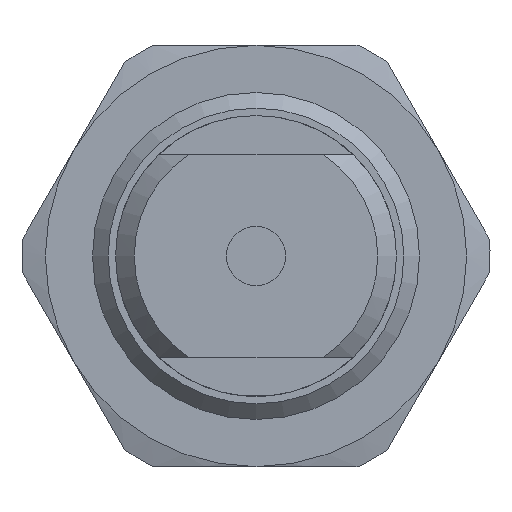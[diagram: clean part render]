
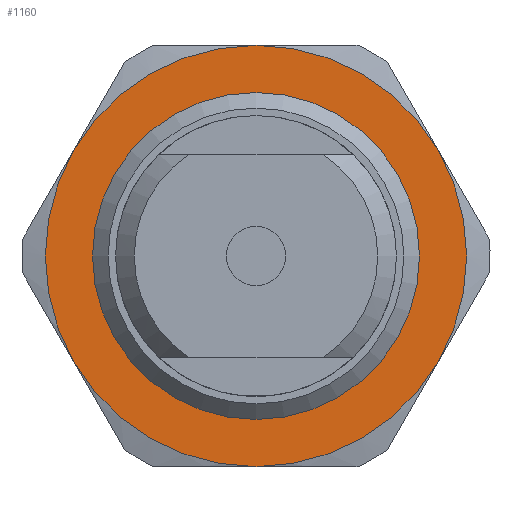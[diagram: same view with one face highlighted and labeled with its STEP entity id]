
A CAD part, front view. The second image highlights one B-rep face of the part: STEP entity #1160.
In plain terms, the highlighted planar face has unit normal (0, -1, 0).
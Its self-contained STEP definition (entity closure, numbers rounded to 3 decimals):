
#921=CIRCLE('',#2739,13.5);
#922=CIRCLE('',#2741,13.5);
#923=CIRCLE('',#2743,13.5);
#924=CIRCLE('',#2745,13.5);
#925=CIRCLE('',#2747,13.5);
#928=CIRCLE('',#2753,13.5);
#1057=FACE_OUTER_BOUND('',#1381,.T.);
#1160=ADVANCED_FACE('',(#1057),#1234,.F.);
#1234=PLANE('',#2755);
#1381=EDGE_LOOP('',(#1738,#1739,#1740,#1741,#1742,#1743));
#1738=ORIENTED_EDGE('',*,*,#2284,.T.);
#1739=ORIENTED_EDGE('',*,*,#2287,.T.);
#1740=ORIENTED_EDGE('',*,*,#2290,.T.);
#1741=ORIENTED_EDGE('',*,*,#2299,.T.);
#1742=ORIENTED_EDGE('',*,*,#2279,.T.);
#1743=ORIENTED_EDGE('',*,*,#2281,.T.);
#2058=VERTEX_POINT('',#3802);
#2059=VERTEX_POINT('',#3804);
#2060=VERTEX_POINT('',#3811);
#2061=VERTEX_POINT('',#3822);
#2062=VERTEX_POINT('',#3833);
#2063=VERTEX_POINT('',#3844);
#2279=EDGE_CURVE('',#2059,#2058,#921,.T.);
#2281=EDGE_CURVE('',#2058,#2060,#922,.T.);
#2284=EDGE_CURVE('',#2060,#2061,#923,.T.);
#2287=EDGE_CURVE('',#2061,#2062,#924,.T.);
#2290=EDGE_CURVE('',#2062,#2063,#925,.T.);
#2299=EDGE_CURVE('',#2063,#2059,#928,.T.);
#2739=AXIS2_PLACEMENT_3D('',#3803,#3101,#3102);
#2741=AXIS2_PLACEMENT_3D('',#3810,#3105,#3106);
#2743=AXIS2_PLACEMENT_3D('',#3821,#3109,#3110);
#2745=AXIS2_PLACEMENT_3D('',#3832,#3113,#3114);
#2747=AXIS2_PLACEMENT_3D('',#3843,#3117,#3118);
#2753=AXIS2_PLACEMENT_3D('',#3870,#3131,#3132);
#2755=AXIS2_PLACEMENT_3D('',#3880,#3135,#3136);
#3101=DIRECTION('',(0.,-1.,0.));
#3102=DIRECTION('',(0.,0.,-1.));
#3105=DIRECTION('',(0.,-1.,0.));
#3106=DIRECTION('',(0.,0.,-1.));
#3109=DIRECTION('',(0.,-1.,0.));
#3110=DIRECTION('',(0.,0.,-1.));
#3113=DIRECTION('',(0.,-1.,0.));
#3114=DIRECTION('',(0.,0.,-1.));
#3117=DIRECTION('',(0.,-1.,0.));
#3118=DIRECTION('',(0.,0.,-1.));
#3131=DIRECTION('',(0.,-1.,0.));
#3132=DIRECTION('',(0.,0.,-1.));
#3135=DIRECTION('',(0.,1.,0.));
#3136=DIRECTION('',(0.,0.,1.));
#3802=CARTESIAN_POINT('',(-11.691,-10.,-6.75));
#3803=CARTESIAN_POINT('',(0.,-10.,0.));
#3804=CARTESIAN_POINT('',(-11.691,-10.,6.75));
#3810=CARTESIAN_POINT('',(0.,-10.,0.));
#3811=CARTESIAN_POINT('',(0.,-10.,-13.5));
#3821=CARTESIAN_POINT('',(0.,-10.,0.));
#3822=CARTESIAN_POINT('',(11.691,-10.,-6.75));
#3832=CARTESIAN_POINT('',(0.,-10.,0.));
#3833=CARTESIAN_POINT('',(11.691,-10.,6.75));
#3843=CARTESIAN_POINT('',(0.,-10.,0.));
#3844=CARTESIAN_POINT('',(0.,-10.,13.5));
#3870=CARTESIAN_POINT('',(0.,-10.,0.));
#3880=CARTESIAN_POINT('',(13.5,-10.,0.));
